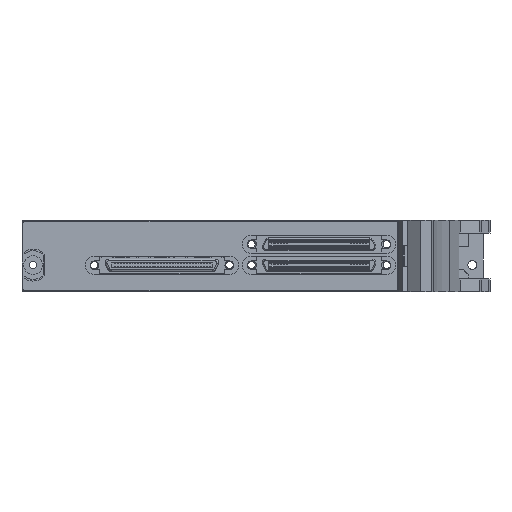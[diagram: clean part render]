
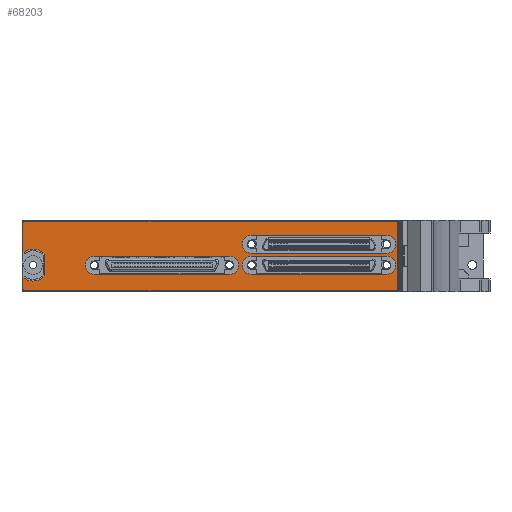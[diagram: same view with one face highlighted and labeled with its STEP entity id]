
A CAD part, left-side view. The second image highlights one B-rep face of the part: STEP entity #68203.
In plain terms, the highlighted planar face has unit normal (-1, 0, 0).
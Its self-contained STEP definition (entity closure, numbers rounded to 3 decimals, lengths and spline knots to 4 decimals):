
#3171=CARTESIAN_POINT('',(-0.215,0.5344,0.665));
#3172=DIRECTION('',(-1.,0.,0.));
#3173=DIRECTION('',(0.,0.,1.));
#3174=AXIS2_PLACEMENT_3D('',#3171,#3172,#3173);
#3176=DIRECTION('',(0.,1.,0.));
#3177=VECTOR('',#3176,4.07);
#3178=CARTESIAN_POINT('',(-0.215,-3.5356,0.685));
#3179=LINE('',#3178,#3177);
#3180=CARTESIAN_POINT('',(-0.215,-3.5356,0.665));
#3181=DIRECTION('',(-1.,0.,0.));
#3182=DIRECTION('',(0.,-1.,0.));
#3183=AXIS2_PLACEMENT_3D('',#3180,#3181,#3182);
#3185=DIRECTION('',(0.,0.,1.));
#3186=VECTOR('',#3185,0.728);
#3187=CARTESIAN_POINT('',(-0.215,-3.5556,-0.063));
#3188=LINE('',#3187,#3186);
#3189=CARTESIAN_POINT('',(-0.215,-3.5356,-0.063));
#3190=DIRECTION('',(-1.,0.,0.));
#3191=DIRECTION('',(0.,0.,-1.));
#3192=AXIS2_PLACEMENT_3D('',#3189,#3190,#3191);
#3194=DIRECTION('',(0.,-1.,0.));
#3195=VECTOR('',#3194,4.07);
#3196=CARTESIAN_POINT('',(-0.215,0.5344,-0.083));
#3197=LINE('',#3196,#3195);
#3198=CARTESIAN_POINT('',(-0.215,0.5344,-0.063));
#3199=DIRECTION('',(-1.,0.,0.));
#3200=DIRECTION('',(0.,1.,0.));
#3201=AXIS2_PLACEMENT_3D('',#3198,#3199,#3200);
#3203=DIRECTION('',(0.,0.,-1.));
#3204=VECTOR('',#3203,0.1295);
#3205=CARTESIAN_POINT('',(-0.215,0.5544,0.0665));
#3206=LINE('',#3205,#3204);
#3207=CARTESIAN_POINT('',(-0.215,0.4424,0.201));
#3208=DIRECTION('',(1.,0.,0.));
#3209=DIRECTION('',(0.,-0.737,-0.676));
#3210=AXIS2_PLACEMENT_3D('',#3207,#3208,#3209);
#3212=DIRECTION('',(0.,0.,-1.));
#3213=VECTOR('',#3212,0.2365);
#3214=CARTESIAN_POINT('',(-0.215,0.3134,0.3193));
#3215=LINE('',#3214,#3213);
#3216=CARTESIAN_POINT('',(-0.215,0.4424,0.201));
#3217=DIRECTION('',(1.,0.,0.));
#3218=DIRECTION('',(0.,0.64,0.768));
#3219=AXIS2_PLACEMENT_3D('',#3216,#3217,#3218);
#3221=DIRECTION('',(0.,0.,-1.));
#3222=VECTOR('',#3221,0.3295);
#3223=CARTESIAN_POINT('',(-0.215,0.5544,0.665));
#3224=LINE('',#3223,#3222);
#3225=CARTESIAN_POINT('',(-0.215,-0.2295,0.1998));
#3226=DIRECTION('',(-1.,0.,0.));
#3227=DIRECTION('',(0.,0.,1.));
#3228=AXIS2_PLACEMENT_3D('',#3225,#3226,#3227);
#3230=DIRECTION('',(0.,-1.,0.));
#3231=VECTOR('',#3230,1.4843);
#3232=CARTESIAN_POINT('',(-0.215,-0.2295,0.0998));
#3233=LINE('',#3232,#3231);
#3234=CARTESIAN_POINT('',(-0.215,-1.7138,0.1998));
#3235=DIRECTION('',(-1.,0.,0.));
#3236=DIRECTION('',(0.,0.,-1.));
#3237=AXIS2_PLACEMENT_3D('',#3234,#3235,#3236);
#3239=DIRECTION('',(0.,1.,0.));
#3240=VECTOR('',#3239,1.4843);
#3241=CARTESIAN_POINT('',(-0.215,-1.7138,0.2998));
#3242=LINE('',#3241,#3240);
#3243=CARTESIAN_POINT('',(-0.215,-1.9548,0.4297));
#3244=DIRECTION('',(-1.,0.,0.));
#3245=DIRECTION('',(0.,0.,1.));
#3246=AXIS2_PLACEMENT_3D('',#3243,#3244,#3245);
#3248=DIRECTION('',(0.,-1.,0.));
#3249=VECTOR('',#3248,1.4843);
#3250=CARTESIAN_POINT('',(-0.215,-1.9548,0.3297));
#3251=LINE('',#3250,#3249);
#3252=CARTESIAN_POINT('',(-0.215,-3.439,0.4297));
#3253=DIRECTION('',(-1.,0.,0.));
#3254=DIRECTION('',(0.,0.,-1.));
#3255=AXIS2_PLACEMENT_3D('',#3252,#3253,#3254);
#3257=DIRECTION('',(0.,1.,0.));
#3258=VECTOR('',#3257,1.4843);
#3259=CARTESIAN_POINT('',(-0.215,-3.439,0.5297));
#3260=LINE('',#3259,#3258);
#3261=CARTESIAN_POINT('',(-0.215,-1.9548,0.1998));
#3262=DIRECTION('',(-1.,0.,0.));
#3263=DIRECTION('',(0.,0.,1.));
#3264=AXIS2_PLACEMENT_3D('',#3261,#3262,#3263);
#3266=DIRECTION('',(0.,-1.,0.));
#3267=VECTOR('',#3266,1.4843);
#3268=CARTESIAN_POINT('',(-0.215,-1.9548,0.0998));
#3269=LINE('',#3268,#3267);
#3270=CARTESIAN_POINT('',(-0.215,-3.439,0.1998));
#3271=DIRECTION('',(-1.,0.,0.));
#3272=DIRECTION('',(0.,0.,-1.));
#3273=AXIS2_PLACEMENT_3D('',#3270,#3271,#3272);
#3275=DIRECTION('',(0.,1.,0.));
#3276=VECTOR('',#3275,1.4843);
#3277=CARTESIAN_POINT('',(-0.215,-3.439,0.2998));
#3278=LINE('',#3277,#3276);
#64024=CARTESIAN_POINT('',(-0.215,0.5344,0.685));
#64025=CARTESIAN_POINT('',(-0.215,0.5544,0.665));
#64026=VERTEX_POINT('',#64024);
#64027=VERTEX_POINT('',#64025);
#64028=CARTESIAN_POINT('',(-0.215,0.5544,0.3355));
#64029=VERTEX_POINT('',#64028);
#64030=CARTESIAN_POINT('',(-0.215,0.3134,0.3193));
#64031=VERTEX_POINT('',#64030);
#64032=CARTESIAN_POINT('',(-0.215,0.3134,0.0827));
#64033=VERTEX_POINT('',#64032);
#64034=CARTESIAN_POINT('',(-0.215,0.5544,0.0665));
#64035=VERTEX_POINT('',#64034);
#64036=CARTESIAN_POINT('',(-0.215,0.5544,-0.063));
#64037=VERTEX_POINT('',#64036);
#64038=CARTESIAN_POINT('',(-0.215,0.5344,-0.083));
#64039=VERTEX_POINT('',#64038);
#64040=CARTESIAN_POINT('',(-0.215,-3.5356,-0.083));
#64041=VERTEX_POINT('',#64040);
#64042=CARTESIAN_POINT('',(-0.215,-3.5556,-0.063));
#64043=VERTEX_POINT('',#64042);
#64044=CARTESIAN_POINT('',(-0.215,-3.5556,0.665));
#64045=VERTEX_POINT('',#64044);
#64046=CARTESIAN_POINT('',(-0.215,-3.5356,0.685));
#64047=VERTEX_POINT('',#64046);
#64048=CARTESIAN_POINT('',(-0.215,-0.2295,0.2998));
#64049=CARTESIAN_POINT('',(-0.215,-0.2295,0.0998));
#64050=VERTEX_POINT('',#64048);
#64051=VERTEX_POINT('',#64049);
#64052=CARTESIAN_POINT('',(-0.215,-1.7138,0.0998));
#64053=VERTEX_POINT('',#64052);
#64054=CARTESIAN_POINT('',(-0.215,-1.7138,0.2998));
#64055=VERTEX_POINT('',#64054);
#64056=CARTESIAN_POINT('',(-0.215,-1.9548,0.5297));
#64057=CARTESIAN_POINT('',(-0.215,-1.9548,0.3297));
#64058=VERTEX_POINT('',#64056);
#64059=VERTEX_POINT('',#64057);
#64060=CARTESIAN_POINT('',(-0.215,-3.439,0.3297));
#64061=VERTEX_POINT('',#64060);
#64062=CARTESIAN_POINT('',(-0.215,-3.439,0.5297));
#64063=VERTEX_POINT('',#64062);
#64064=CARTESIAN_POINT('',(-0.215,-1.9548,0.2998));
#64065=CARTESIAN_POINT('',(-0.215,-1.9548,0.0998));
#64066=VERTEX_POINT('',#64064);
#64067=VERTEX_POINT('',#64065);
#64068=CARTESIAN_POINT('',(-0.215,-3.439,0.0998));
#64069=VERTEX_POINT('',#64068);
#64070=CARTESIAN_POINT('',(-0.215,-3.439,0.2998));
#64071=VERTEX_POINT('',#64070);
#68154=CARTESIAN_POINT('',(-0.215,0.4424,0.201));
#68155=DIRECTION('',(-1.,0.,0.));
#68156=DIRECTION('',(0.,0.,1.));
#68157=AXIS2_PLACEMENT_3D('',#68154,#68155,#68156);
#68158=PLANE('',#68157);
#68159=ORIENTED_EDGE('',*,*,#67994,.F.);
#68160=ORIENTED_EDGE('',*,*,#68009,.F.);
#68161=ORIENTED_EDGE('',*,*,#68023,.F.);
#68162=ORIENTED_EDGE('',*,*,#68037,.F.);
#68163=ORIENTED_EDGE('',*,*,#68051,.F.);
#68164=ORIENTED_EDGE('',*,*,#68065,.F.);
#68165=ORIENTED_EDGE('',*,*,#68079,.F.);
#68166=ORIENTED_EDGE('',*,*,#68093,.F.);
#68167=ORIENTED_EDGE('',*,*,#68107,.F.);
#68168=ORIENTED_EDGE('',*,*,#68121,.F.);
#68169=ORIENTED_EDGE('',*,*,#68135,.F.);
#68170=ORIENTED_EDGE('',*,*,#68148,.F.);
#68171=EDGE_LOOP('',(#68159,#68160,#68161,#68162,#68163,#68164,#68165,#68166,
#68167,#68168,#68169,#68170));
#68172=FACE_OUTER_BOUND('',#68171,.F.);
#68174=ORIENTED_EDGE('',*,*,#68173,.T.);
#68176=ORIENTED_EDGE('',*,*,#68175,.T.);
#68178=ORIENTED_EDGE('',*,*,#68177,.T.);
#68180=ORIENTED_EDGE('',*,*,#68179,.T.);
#68181=EDGE_LOOP('',(#68174,#68176,#68178,#68180));
#68182=FACE_BOUND('',#68181,.F.);
#68184=ORIENTED_EDGE('',*,*,#68183,.T.);
#68186=ORIENTED_EDGE('',*,*,#68185,.T.);
#68188=ORIENTED_EDGE('',*,*,#68187,.T.);
#68190=ORIENTED_EDGE('',*,*,#68189,.T.);
#68191=EDGE_LOOP('',(#68184,#68186,#68188,#68190));
#68192=FACE_BOUND('',#68191,.F.);
#68194=ORIENTED_EDGE('',*,*,#68193,.T.);
#68196=ORIENTED_EDGE('',*,*,#68195,.T.);
#68198=ORIENTED_EDGE('',*,*,#68197,.T.);
#68200=ORIENTED_EDGE('',*,*,#68199,.T.);
#68201=EDGE_LOOP('',(#68194,#68196,#68198,#68200));
#68202=FACE_BOUND('',#68201,.F.);
#68203=ADVANCED_FACE('',(#68172,#68182,#68192,#68202),#68158,.T.);
#3175=CIRCLE('',#3174,0.02);
#3184=CIRCLE('',#3183,0.02);
#3193=CIRCLE('',#3192,0.02);
#3202=CIRCLE('',#3201,0.02);
#3211=CIRCLE('',#3210,0.175);
#3220=CIRCLE('',#3219,0.175);
#3229=CIRCLE('',#3228,0.1);
#3238=CIRCLE('',#3237,0.1);
#3247=CIRCLE('',#3246,0.1);
#3256=CIRCLE('',#3255,0.1);
#3265=CIRCLE('',#3264,0.1);
#3274=CIRCLE('',#3273,0.1);
#67994=EDGE_CURVE('',#64026,#64027,#3175,.T.);
#68009=EDGE_CURVE('',#64047,#64026,#3179,.T.);
#68023=EDGE_CURVE('',#64045,#64047,#3184,.T.);
#68037=EDGE_CURVE('',#64043,#64045,#3188,.T.);
#68051=EDGE_CURVE('',#64041,#64043,#3193,.T.);
#68065=EDGE_CURVE('',#64039,#64041,#3197,.T.);
#68079=EDGE_CURVE('',#64037,#64039,#3202,.T.);
#68093=EDGE_CURVE('',#64035,#64037,#3206,.T.);
#68107=EDGE_CURVE('',#64033,#64035,#3211,.T.);
#68121=EDGE_CURVE('',#64031,#64033,#3215,.T.);
#68135=EDGE_CURVE('',#64029,#64031,#3220,.T.);
#68148=EDGE_CURVE('',#64027,#64029,#3224,.T.);
#68173=EDGE_CURVE('',#64050,#64051,#3229,.T.);
#68175=EDGE_CURVE('',#64051,#64053,#3233,.T.);
#68177=EDGE_CURVE('',#64053,#64055,#3238,.T.);
#68179=EDGE_CURVE('',#64055,#64050,#3242,.T.);
#68183=EDGE_CURVE('',#64058,#64059,#3247,.T.);
#68185=EDGE_CURVE('',#64059,#64061,#3251,.T.);
#68187=EDGE_CURVE('',#64061,#64063,#3256,.T.);
#68189=EDGE_CURVE('',#64063,#64058,#3260,.T.);
#68193=EDGE_CURVE('',#64066,#64067,#3265,.T.);
#68195=EDGE_CURVE('',#64067,#64069,#3269,.T.);
#68197=EDGE_CURVE('',#64069,#64071,#3274,.T.);
#68199=EDGE_CURVE('',#64071,#64066,#3278,.T.);
